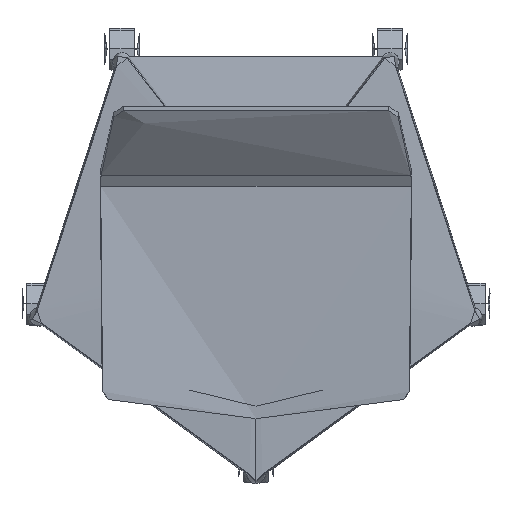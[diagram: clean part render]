
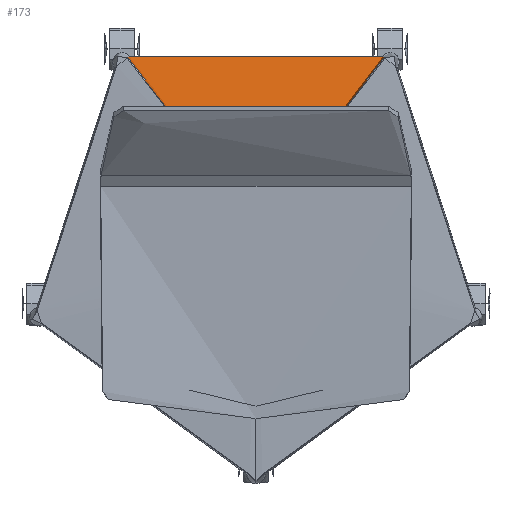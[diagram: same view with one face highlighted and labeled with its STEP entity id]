
A CAD part, top view. The second image highlights one B-rep face of the part: STEP entity #173.
In plain terms, the highlighted free-form (B-spline) face has degree [1, 2] with [2, 9] control points.
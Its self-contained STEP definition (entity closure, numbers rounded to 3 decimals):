
#173=ADVANCED_FACE('',(#389),#3132,.T.);
#389=FACE_OUTER_BOUND('',#605,.T.);
#605=EDGE_LOOP('',(#1005,#1006,#1007,#1008,#1009));
#1005=ORIENTED_EDGE('',*,*,#1932,.T.);
#1006=ORIENTED_EDGE('',*,*,#1899,.T.);
#1007=ORIENTED_EDGE('',*,*,#1873,.T.);
#1008=ORIENTED_EDGE('',*,*,#1874,.T.);
#1009=ORIENTED_EDGE('',*,*,#1929,.T.);
#1873=EDGE_CURVE('',#2876,#2877,#2514,.T.);
#1874=EDGE_CURVE('',#2877,#2907,#2515,.T.);
#1899=EDGE_CURVE('',#2906,#2876,#2540,.T.);
#1929=EDGE_CURVE('',#2907,#2905,#2384,.T.);
#1932=EDGE_CURVE('',#2905,#2906,#2387,.T.);
#2384=B_SPLINE_CURVE_WITH_KNOTS('',3,(#9082,#9083,#9084,#9085,#9086,#9087,
#9088,#9089,#9090,#9091,#9092,#9093,#9094),.UNSPECIFIED.,.F.,.F.,(4,3,1,
1,3,1,4),(-0.072,-0.072,125.827,199.822,
291.478,298.304,305.233),.UNSPECIFIED.);
#2387=B_SPLINE_CURVE_WITH_KNOTS('',3,(#9110,#9111,#9112,#9113,#9114,#9115,
#9116,#9117,#9118,#9119,#9120,#9121,#9122),.UNSPECIFIED.,.F.,.F.,(4,1,3,
1,1,3,4),(0.,6.929,13.755,105.411,
179.406,305.304,305.304),.UNSPECIFIED.);
#2514=(
BOUNDED_CURVE()
B_SPLINE_CURVE(2,(#8553,#8554,#8555,#8556,#8557,#8558,#8559,#8560,#8561),
 .UNSPECIFIED.,.F.,.F.)
B_SPLINE_CURVE_WITH_KNOTS((3,2,2,2,3),(0.,291.287,304.227,
317.167,608.455),.UNSPECIFIED.)
CURVE()
GEOMETRIC_REPRESENTATION_ITEM()
RATIONAL_B_SPLINE_CURVE((1.,1.,1.,0.895,1.,0.895,
1.,1.,1.))
REPRESENTATION_ITEM('')
);
#2515=(
BOUNDED_CURVE()
B_SPLINE_CURVE(1,(#8562,#8563),.UNSPECIFIED.,.F.,.F.)
B_SPLINE_CURVE_WITH_KNOTS((2,2),(-35.284,-11.76),
 .UNSPECIFIED.)
CURVE()
GEOMETRIC_REPRESENTATION_ITEM()
RATIONAL_B_SPLINE_CURVE((1.,1.))
REPRESENTATION_ITEM('')
);
#2540=(
BOUNDED_CURVE()
B_SPLINE_CURVE(1,(#8653,#8654),.UNSPECIFIED.,.F.,.F.)
B_SPLINE_CURVE_WITH_KNOTS((2,2),(11.76,35.284),
 .UNSPECIFIED.)
CURVE()
GEOMETRIC_REPRESENTATION_ITEM()
RATIONAL_B_SPLINE_CURVE((1.,1.))
REPRESENTATION_ITEM('')
);
#2876=VERTEX_POINT('',#8473);
#2877=VERTEX_POINT('',#8474);
#2905=VERTEX_POINT('',#8502);
#2906=VERTEX_POINT('',#8503);
#2907=VERTEX_POINT('',#8504);
#3132=(
BOUNDED_SURFACE()
B_SPLINE_SURFACE(1,2,((#7751,#7752,#7753,#7754,#7755,#7756,#7757,#7758,
#7759),(#7760,#7761,#7762,#7763,#7764,#7765,#7766,#7767,#7768)),
 .UNSPECIFIED.,.F.,.F.,.F.)
B_SPLINE_SURFACE_WITH_KNOTS((2,2),(3,2,2,2,3),(0.,35.284),(0.,
291.287,304.227,317.167,608.455),
 .UNSPECIFIED.)
GEOMETRIC_REPRESENTATION_ITEM()
RATIONAL_B_SPLINE_SURFACE(((1.,1.,1.,0.895,1.,0.895,
1.,1.,1.),(1.,1.,1.,0.895,1.,0.895,1.,1.,1.)))
REPRESENTATION_ITEM('')
SURFACE()
);
#7751=CARTESIAN_POINT('',(186.645,272.207,95.95));
#7752=CARTESIAN_POINT('',(98.91,155.955,95.95));
#7753=CARTESIAN_POINT('',(11.175,39.702,95.95));
#7754=CARTESIAN_POINT('',(6.974,34.136,95.95));
#7755=CARTESIAN_POINT('',(0.,34.136,95.95));
#7756=CARTESIAN_POINT('',(-6.974,34.136,95.95));
#7757=CARTESIAN_POINT('',(-11.175,39.702,95.95));
#7758=CARTESIAN_POINT('',(-98.91,155.955,95.95));
#7759=CARTESIAN_POINT('',(-186.645,272.207,95.95));
#7760=CARTESIAN_POINT('',(183.452,274.617,60.95));
#7761=CARTESIAN_POINT('',(95.717,158.364,60.95));
#7762=CARTESIAN_POINT('',(7.982,42.112,60.95));
#7763=CARTESIAN_POINT('',(4.981,38.136,60.95));
#7764=CARTESIAN_POINT('',(0.,38.136,60.95));
#7765=CARTESIAN_POINT('',(-4.981,38.136,60.95));
#7766=CARTESIAN_POINT('',(-7.982,42.112,60.95));
#7767=CARTESIAN_POINT('',(-95.717,158.364,60.95));
#7768=CARTESIAN_POINT('',(-183.452,274.617,60.95));
#8473=CARTESIAN_POINT('',(183.452,274.617,60.95));
#8474=CARTESIAN_POINT('',(-183.452,274.617,60.95));
#8502=CARTESIAN_POINT('',(0.,34.246,94.983));
#8503=CARTESIAN_POINT('',(185.581,273.01,84.284));
#8504=CARTESIAN_POINT('',(-185.581,273.01,84.284));
#8553=CARTESIAN_POINT('',(183.452,274.617,60.95));
#8554=CARTESIAN_POINT('',(95.717,158.364,60.95));
#8555=CARTESIAN_POINT('',(7.982,42.112,60.95));
#8556=CARTESIAN_POINT('',(4.981,38.136,60.95));
#8557=CARTESIAN_POINT('',(0.,38.136,60.95));
#8558=CARTESIAN_POINT('',(-4.981,38.136,60.95));
#8559=CARTESIAN_POINT('',(-7.982,42.112,60.95));
#8560=CARTESIAN_POINT('',(-95.717,158.364,60.95));
#8561=CARTESIAN_POINT('',(-183.452,274.617,60.95));
#8562=CARTESIAN_POINT('',(-183.452,274.617,60.95));
#8563=CARTESIAN_POINT('',(-185.581,273.01,84.284));
#8653=CARTESIAN_POINT('',(185.581,273.01,84.284));
#8654=CARTESIAN_POINT('',(183.452,274.617,60.95));
#9082=CARTESIAN_POINT('',(-185.581,273.01,84.284));
#9083=CARTESIAN_POINT('',(-185.581,273.01,84.284));
#9084=CARTESIAN_POINT('',(-185.581,273.01,84.284));
#9085=CARTESIAN_POINT('',(-185.581,273.01,84.284));
#9086=CARTESIAN_POINT('',(-160.684,239.389,87.612));
#9087=CARTESIAN_POINT('',(-120.927,186.026,91.218));
#9088=CARTESIAN_POINT('',(-62.668,108.291,94.063));
#9089=CARTESIAN_POINT('',(-29.471,64.17,94.765));
#9090=CARTESIAN_POINT('',(-11.083,39.772,94.941));
#9091=CARTESIAN_POINT('',(-9.807,38.074,94.954));
#9092=CARTESIAN_POINT('',(-6.432,35.263,94.975));
#9093=CARTESIAN_POINT('',(-2.156,34.243,94.983));
#9094=CARTESIAN_POINT('',(0.,34.246,94.983));
#9110=CARTESIAN_POINT('',(0.,34.246,94.983));
#9111=CARTESIAN_POINT('',(2.156,34.243,94.983));
#9112=CARTESIAN_POINT('',(6.432,35.263,94.975));
#9113=CARTESIAN_POINT('',(9.807,38.074,94.954));
#9114=CARTESIAN_POINT('',(11.083,39.772,94.941));
#9115=CARTESIAN_POINT('',(29.471,64.17,94.765));
#9116=CARTESIAN_POINT('',(62.668,108.291,94.063));
#9117=CARTESIAN_POINT('',(120.927,186.026,91.218));
#9118=CARTESIAN_POINT('',(160.683,239.389,87.612));
#9119=CARTESIAN_POINT('',(185.58,273.01,84.284));
#9120=CARTESIAN_POINT('',(185.581,273.01,84.284));
#9121=CARTESIAN_POINT('',(185.581,273.01,84.284));
#9122=CARTESIAN_POINT('',(185.581,273.01,84.284));
